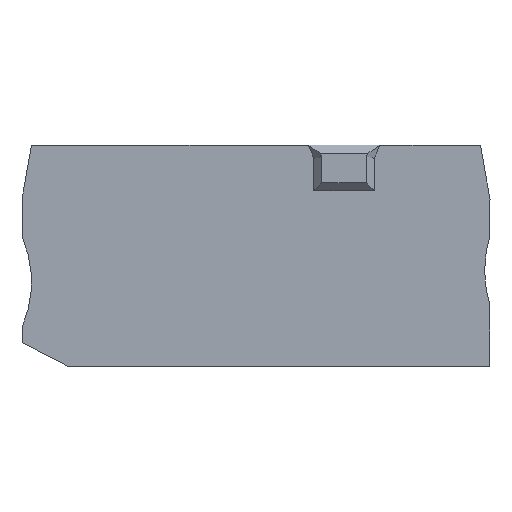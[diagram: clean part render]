
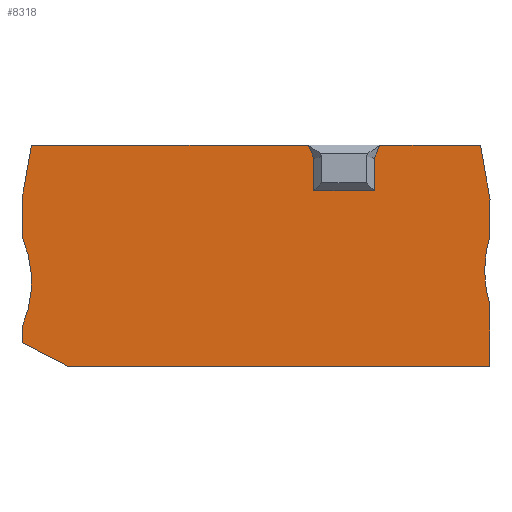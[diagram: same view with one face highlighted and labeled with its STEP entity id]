
A CAD part, left-side view. The second image highlights one B-rep face of the part: STEP entity #8318.
In plain terms, the highlighted planar face has unit normal (-1, 0, 0).
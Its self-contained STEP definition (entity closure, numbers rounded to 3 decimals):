
#7630=CARTESIAN_POINT('',(0.,60.65,29.25));
#7631=VERTEX_POINT('',#7630);
#7638=CARTESIAN_POINT('',(0.,24.018,29.25));
#7639=VERTEX_POINT('',#7638);
#7640=CARTESIAN_POINT('',(0.,60.65,29.25));
#7641=DIRECTION('',(-0.,-1.,-0.));
#7642=VECTOR('',#7641,36.631);
#7643=LINE('',#7640,#7642);
#7644=EDGE_CURVE('',#7631,#7639,#7643,.T.);
#7662=CARTESIAN_POINT('',(0.,14.582,29.25));
#7663=VERTEX_POINT('',#7662);
#7670=CARTESIAN_POINT('',(0.,1.256,29.25));
#7671=VERTEX_POINT('',#7670);
#7672=CARTESIAN_POINT('',(0.,14.582,29.25));
#7673=DIRECTION('',(-0.,-1.,-0.));
#7674=VECTOR('',#7673,13.326);
#7675=LINE('',#7672,#7674);
#7676=EDGE_CURVE('',#7663,#7671,#7675,.T.);
#8130=CARTESIAN_POINT('',(0.,15.3,23.25));
#8131=VERTEX_POINT('',#8130);
#8139=CARTESIAN_POINT('',(0.,23.3,23.25));
#8140=VERTEX_POINT('',#8139);
#8147=CARTESIAN_POINT('',(0.,23.3,23.25));
#8148=DIRECTION('',(-0.,-1.,-0.));
#8149=VECTOR('',#8148,8.);
#8150=LINE('',#8147,#8149);
#8151=EDGE_CURVE('',#8140,#8131,#8150,.T.);
#8163=CARTESIAN_POINT('',(0.,23.3,27.55));
#8164=VERTEX_POINT('',#8163);
#8171=CARTESIAN_POINT('',(0.,23.3,27.55));
#8172=DIRECTION('',(-0.,0.,-1.));
#8173=VECTOR('',#8172,4.3);
#8174=LINE('',#8171,#8173);
#8175=EDGE_CURVE('',#8164,#8140,#8174,.T.);
#8198=CARTESIAN_POINT('',(0.,24.6,28.25));
#8199=DIRECTION('',(-1.,0.,0.));
#8200=DIRECTION('',(0.,-1.,-0.));
#8201=AXIS2_PLACEMENT_3D('',#8198,#8199,#8200);
#8202=PLANE('',#8201);
#8203=CARTESIAN_POINT('',(0.,61.9,3.153));
#8204=VERTEX_POINT('',#8203);
#8205=CARTESIAN_POINT('',(0.,61.9,5.2));
#8206=VERTEX_POINT('',#8205);
#8207=CARTESIAN_POINT('',(0.,61.9,3.153));
#8208=DIRECTION('',(-0.,-0.,1.));
#8209=VECTOR('',#8208,2.047);
#8210=LINE('',#8207,#8209);
#8211=EDGE_CURVE('',#8204,#8206,#8210,.T.);
#8212=ORIENTED_EDGE('',*,*,#8211,.F.);
#8213=CARTESIAN_POINT('',(0.,55.727,0.));
#8214=VERTEX_POINT('',#8213);
#8215=CARTESIAN_POINT('',(0.,61.9,3.153));
#8216=DIRECTION('',(-0.,-0.891,-0.455));
#8217=VECTOR('',#8216,6.932);
#8218=LINE('',#8215,#8217);
#8219=EDGE_CURVE('',#8204,#8214,#8218,.T.);
#8220=ORIENTED_EDGE('',*,*,#8219,.T.);
#8221=CARTESIAN_POINT('',(0.,0.,0.));
#8222=VERTEX_POINT('',#8221);
#8223=CARTESIAN_POINT('',(0.,0.,0.));
#8224=DIRECTION('',(-0.,1.,0.));
#8225=VECTOR('',#8224,55.727);
#8226=LINE('',#8223,#8225);
#8227=EDGE_CURVE('',#8222,#8214,#8226,.T.);
#8228=ORIENTED_EDGE('',*,*,#8227,.F.);
#8229=CARTESIAN_POINT('',(0.,0.,8.2));
#8230=VERTEX_POINT('',#8229);
#8231=CARTESIAN_POINT('',(0.,0.,8.2));
#8232=DIRECTION('',(-0.,0.,-1.));
#8233=VECTOR('',#8232,8.2);
#8234=LINE('',#8231,#8233);
#8235=EDGE_CURVE('',#8230,#8222,#8234,.T.);
#8236=ORIENTED_EDGE('',*,*,#8235,.F.);
#8237=CARTESIAN_POINT('',(0.,0.691,12.7));
#8238=VERTEX_POINT('',#8237);
#8239=CARTESIAN_POINT('',(0.,-14.309,12.7));
#8240=DIRECTION('',(1.,0.,-0.));
#8241=DIRECTION('',(0.,1.,0.));
#8242=AXIS2_PLACEMENT_3D('',#8239,#8240,#8241);
#8243=CIRCLE('',#8242,15.);
#8244=EDGE_CURVE('',#8230,#8238,#8243,.T.);
#8245=ORIENTED_EDGE('',*,*,#8244,.T.);
#8246=CARTESIAN_POINT('',(0.,0.,17.2));
#8247=VERTEX_POINT('',#8246);
#8248=CARTESIAN_POINT('',(0.,-14.309,12.7));
#8249=DIRECTION('',(1.,0.,-0.));
#8250=DIRECTION('',(0.,1.,0.));
#8251=AXIS2_PLACEMENT_3D('',#8248,#8249,#8250);
#8252=CIRCLE('',#8251,15.);
#8253=EDGE_CURVE('',#8238,#8247,#8252,.T.);
#8254=ORIENTED_EDGE('',*,*,#8253,.T.);
#8255=CARTESIAN_POINT('',(0.,0.,22.129));
#8256=VERTEX_POINT('',#8255);
#8257=CARTESIAN_POINT('',(0.,0.,22.129));
#8258=DIRECTION('',(-0.,0.,-1.));
#8259=VECTOR('',#8258,4.929);
#8260=LINE('',#8257,#8259);
#8261=EDGE_CURVE('',#8256,#8247,#8260,.T.);
#8262=ORIENTED_EDGE('',*,*,#8261,.F.);
#8263=CARTESIAN_POINT('',(0.,1.256,29.25));
#8264=DIRECTION('',(-0.,-0.174,-0.985));
#8265=VECTOR('',#8264,7.231);
#8266=LINE('',#8263,#8265);
#8267=EDGE_CURVE('',#7671,#8256,#8266,.T.);
#8268=ORIENTED_EDGE('',*,*,#8267,.F.);
#8269=ORIENTED_EDGE('',*,*,#7676,.F.);
#8270=CARTESIAN_POINT('',(0.,15.3,27.55));
#8271=VERTEX_POINT('',#8270);
#8272=CARTESIAN_POINT('',(0.,15.3,27.55));
#8273=DIRECTION('',(-0.,-0.389,0.921));
#8274=VECTOR('',#8273,1.846);
#8275=LINE('',#8272,#8274);
#8276=EDGE_CURVE('',#8271,#7663,#8275,.T.);
#8277=ORIENTED_EDGE('',*,*,#8276,.F.);
#8278=CARTESIAN_POINT('',(0.,15.3,23.25));
#8279=DIRECTION('',(0.,-0.,1.));
#8280=VECTOR('',#8279,4.3);
#8281=LINE('',#8278,#8280);
#8282=EDGE_CURVE('',#8131,#8271,#8281,.T.);
#8283=ORIENTED_EDGE('',*,*,#8282,.F.);
#8284=ORIENTED_EDGE('',*,*,#8151,.F.);
#8285=ORIENTED_EDGE('',*,*,#8175,.F.);
#8286=CARTESIAN_POINT('',(0.,24.018,29.25));
#8287=DIRECTION('',(-0.,-0.389,-0.921));
#8288=VECTOR('',#8287,1.846);
#8289=LINE('',#8286,#8288);
#8290=EDGE_CURVE('',#7639,#8164,#8289,.T.);
#8291=ORIENTED_EDGE('',*,*,#8290,.F.);
#8292=ORIENTED_EDGE('',*,*,#7644,.F.);
#8293=CARTESIAN_POINT('',(0.,61.901,22.154));
#8294=VERTEX_POINT('',#8293);
#8295=CARTESIAN_POINT('',(0.,61.901,22.154));
#8296=DIRECTION('',(-0.,-0.174,0.985));
#8297=VECTOR('',#8296,7.206);
#8298=LINE('',#8295,#8297);
#8299=EDGE_CURVE('',#8294,#7631,#8298,.T.);
#8300=ORIENTED_EDGE('',*,*,#8299,.F.);
#8301=CARTESIAN_POINT('',(0.,61.9,17.2));
#8302=VERTEX_POINT('',#8301);
#8303=CARTESIAN_POINT('',(0.,61.9,17.2));
#8304=DIRECTION('',(-0.,-0.,1.));
#8305=VECTOR('',#8304,4.954);
#8306=LINE('',#8303,#8305);
#8307=EDGE_CURVE('',#8302,#8294,#8306,.T.);
#8308=ORIENTED_EDGE('',*,*,#8307,.F.);
#8309=CARTESIAN_POINT('',(0.,75.648,11.2));
#8310=DIRECTION('',(1.,0.,-0.));
#8311=DIRECTION('',(0.,1.,0.));
#8312=AXIS2_PLACEMENT_3D('',#8309,#8310,#8311);
#8313=CIRCLE('',#8312,15.);
#8314=EDGE_CURVE('',#8302,#8206,#8313,.T.);
#8315=ORIENTED_EDGE('',*,*,#8314,.T.);
#8316=EDGE_LOOP('',(#8212,#8220,#8228,#8236,#8245,#8254,#8262,#8268,#8269,#8277,#8283,#8284,#8285,#8291,#8292,#8300,#8308,#8315));
#8317=FACE_BOUND('',#8316,.T.);
#8318=ADVANCED_FACE('',(#8317),#8202,.T.);
